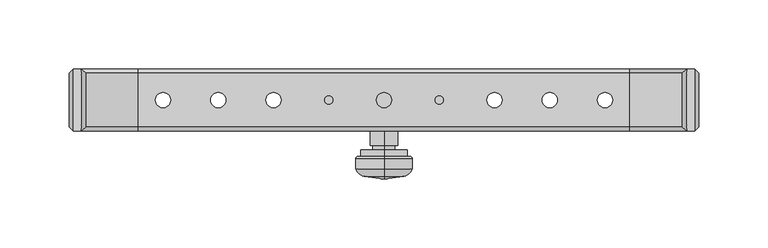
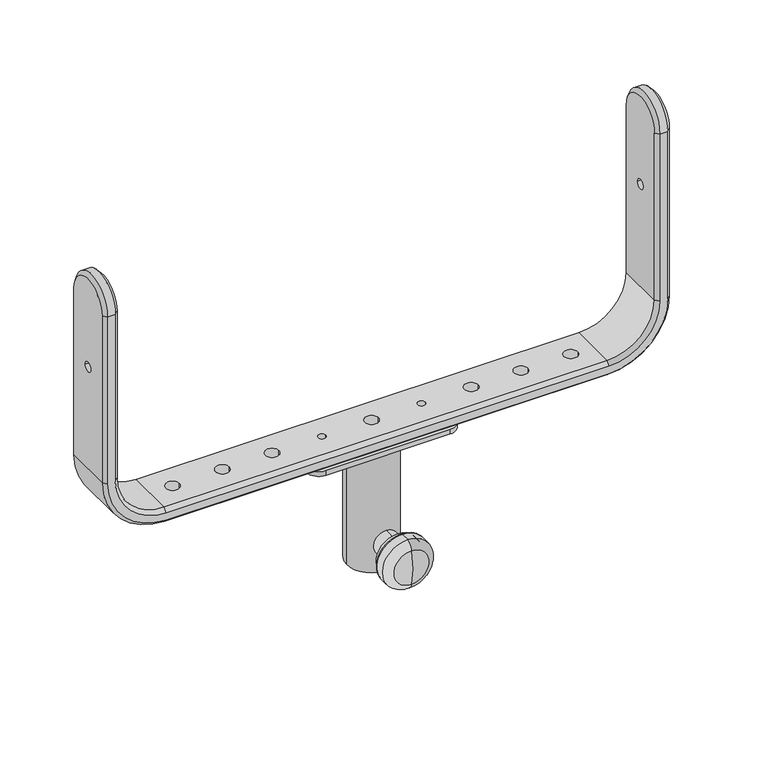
"""IFC4 building model written with IfcOpenShell, lengths in millimetres: proxy geometry, ePS8-HBRK425-SHM : ePS8-HBRK425-SHM."""

from ifc_helpers import new_model, si_unit, point, frame, frame_2d, origin, origin_with_axes, origin_2d, place, context, project, spatial, polyline, circle_curve, ellipse_curve, trimmed, segment, composite_curve, outline, extrude, source, transform, mapped, element, save
from ifc_brep_helpers import plane_surface, cylinder_surface, revolved_surface, advanced_brep


def generic_models_769fed6e(model_context):
    return source(origin(), model_context, "Body", "SolidModel", [
        advanced_brep(
        [(228.0, 19.5718345, 192.0012591), (228.0, -19.5718345, 192.0012591), (228.0, -19.5718345, 50.0), (228.0, 19.5718345, 50.0), (228.0, 4.0, 137.0012591), (228.0, -4.0, 137.0012591), (225.0, -22.5718345, 192.0012591), (225.0, -22.5718345, 50.0), (219.0, -22.5718345, 192.0012591), (219.0, -22.5718345, 50.0), (178.0, -22.5718345, 9.0), (-178.0, -22.5718345, 9.0), (-219.0, -22.5718345, 50.0), (-219.0, -22.5718345, 192.0012591), (-225.0, -22.5718345, 192.0012591), (-225.0, -22.5718345, 50.0), (-178.0, -22.5718345, 3.0), (178.0, -22.5718345, 3.0), (216.0, -19.5718345, 192.0012591), (216.0, -19.5718345, 50.0), (216.0, 19.5718345, 192.0012591), (216.0, 19.5718345, 50.0), (216.0, -4.0, 137.0012591), (216.0, 4.0, 137.0012591), (178.0, -19.5718345, 0.0), (178.0, 19.5718345, 0.0), (178.0, -19.5718345, 12.0), (178.0, 19.5718345, 12.0), (-178.0, -19.5718345, 0.0), (-178.0, 19.5718345, 0.0), (5.5, 0.0, 0.0), (-5.5, 0.0, 0.0), (-154.5, 0.0, 0.0), (-165.5, 0.0, 0.0), (-37.0, 0.0, 0.0), (-43.0, 0.0, 0.0), (-114.5, 0.0, 0.0), (-125.5, 0.0, 0.0), (-74.5, 0.0, 0.0), (-85.5, 0.0, 0.0), (154.5, 0.0, 0.0), (165.5, 0.0, 0.0), (37.0, 0.0, 0.0), (43.0, 0.0, 0.0), (114.5, 0.0, 0.0), (125.5, 0.0, 0.0), (74.5, 0.0, 0.0), (85.5, 0.0, 0.0), (-178.0, -19.5718345, 12.0), (-178.0, 19.5718345, 12.0), (-5.5, 0.0, 12.0), (5.5, 0.0, 12.0), (-165.5, 0.0, 12.0), (-154.5, 0.0, 12.0), (-43.0, 0.0, 12.0), (-37.0, 0.0, 12.0), (-125.5, 0.0, 12.0), (-114.5, 0.0, 12.0), (-85.5, 0.0, 12.0), (-74.5, 0.0, 12.0), (165.5, 0.0, 12.0), (154.5, 0.0, 12.0), (43.0, 0.0, 12.0), (37.0, 0.0, 12.0), (125.5, 0.0, 12.0), (114.5, 0.0, 12.0), (85.5, 0.0, 12.0), (74.5, 0.0, 12.0), (-228.0, -19.5718345, 50.0), (-228.0, 19.5718345, 50.0), (-216.0, -19.5718345, 50.0), (-216.0, 19.5718345, 50.0), (-228.0, -19.5718345, 192.0012591), (-228.0, 19.5718345, 192.0012591), (-228.0, -4.0, 137.0012591), (-228.0, 4.0, 137.0012591), (-216.0, -19.5718345, 192.0012591), (-216.0, 19.5718345, 192.0012591), (-216.0, 4.0, 137.0012591), (-216.0, -4.0, 137.0012591), (219.0, 22.5718345, 192.0012591), (219.0, 22.5718345, 50.0), (225.0, 22.5718345, 192.0012591), (225.0, 22.5718345, 50.0), (178.0, 22.5718345, 3.0), (-178.0, 22.5718345, 3.0), (-225.0, 22.5718345, 50.0), (-225.0, 22.5718345, 192.0012591), (-219.0, 22.5718345, 192.0012591), (-219.0, 22.5718345, 50.0), (-178.0, 22.5718345, 9.0), (178.0, 22.5718345, 9.0)],
        [
            (0, 1, circle_curve(frame((228.0, 0.0, 192.0012591), z_axis=(1.0, 0.0, 0.0), x_axis=(0.0, -1.0, 0.0)), 19.5718345)),
            (1, 2),
            (2, 3),
            (3, 0),
            (4, 5, circle_curve(frame((228.0, 0.0, 137.0012591), z_axis=(-1.0, 0.0, 0.0), x_axis=(0.0, 1.0, 0.0)), 4.0)),
            (5, 4, circle_curve(frame((228.0, 0.0, 137.0012591), z_axis=(-1.0, 0.0, 0.0), x_axis=(0.0, 1.0, 0.0)), 4.0)),
            (1, 6),
            (6, 7),
            (7, 2),
            (6, 8),
            (8, 9),
            (9, 10, circle_curve(frame((178.0, -22.5718345, 50.0), z_axis=(0.0, 1.0, 0.0), x_axis=(1.0, 0.0, 0.0)), 41.0)),
            (10, 11),
            (11, 12, circle_curve(frame((-178.0, -22.5718345, 50.0), z_axis=(0.0, 1.0, 0.0), x_axis=(0.0, 0.0, -1.0)), 41.0)),
            (12, 13),
            (13, 14),
            (14, 15),
            (15, 16, circle_curve(frame((-178.0, -22.5718345, 50.0), z_axis=(0.0, -1.0, 0.0), x_axis=(0.0, 0.0, -1.0)), 47.0)),
            (16, 17),
            (17, 7, circle_curve(frame((178.0, -22.5718345, 50.0), z_axis=(0.0, -1.0, 0.0), x_axis=(1.0, 0.0, 0.0)), 47.0)),
            (8, 18),
            (18, 19),
            (19, 9),
            (18, 20, circle_curve(frame((216.0, 0.0, 192.0012591), z_axis=(-1.0, 0.0, 0.0), x_axis=(0.0, -1.0, 0.0)), 19.5718345)),
            (20, 21),
            (21, 19),
            (22, 23, circle_curve(frame((216.0, 0.0, 137.0012591), z_axis=(1.0, 0.0, 0.0), x_axis=(0.0, 1.0, 0.0)), 4.0)),
            (23, 22, circle_curve(frame((216.0, 0.0, 137.0012591), z_axis=(1.0, 0.0, 0.0), x_axis=(0.0, 1.0, 0.0)), 4.0)),
            (2, 24, circle_curve(frame((178.0, -19.5718345, 50.0), z_axis=(0.0, 1.0, 0.0), x_axis=(1.0, 0.0, 0.0)), 50.0)),
            (24, 25),
            (25, 3, circle_curve(frame((178.0, 19.5718345, 50.0), z_axis=(0.0, -1.0, 0.0), x_axis=(1.0, 0.0, 0.0)), 50.0)),
            (17, 24),
            (19, 26, circle_curve(frame((178.0, -19.5718345, 50.0), z_axis=(0.0, 1.0, 0.0), x_axis=(1.0, 0.0, 0.0)), 38.0)),
            (26, 10),
            (21, 27, circle_curve(frame((178.0, 19.5718345, 50.0), z_axis=(0.0, 1.0, 0.0), x_axis=(1.0, 0.0, 0.0)), 38.0)),
            (27, 26),
            (24, 28),
            (28, 29),
            (29, 25),
            (30, 31, circle_curve(origin_with_axes(), 5.5)),
            (31, 30, circle_curve(origin_with_axes(), 5.5)),
            (32, 33, circle_curve(frame((-160.0, 0.0, 0.0), z_axis=(0.0, 0.0, 1.0), x_axis=(1.0, 0.0, 0.0)), 5.5)),
            (33, 32, circle_curve(frame((-160.0, 0.0, 0.0), z_axis=(0.0, 0.0, 1.0), x_axis=(1.0, 0.0, 0.0)), 5.5)),
            (34, 35, circle_curve(frame((-40.0, 0.0, 0.0), z_axis=(0.0, 0.0, 1.0), x_axis=(1.0, 0.0, 0.0)), 3.0)),
            (35, 34, circle_curve(frame((-40.0, 0.0, 0.0), z_axis=(0.0, 0.0, 1.0), x_axis=(1.0, 0.0, 0.0)), 3.0)),
            (36, 37, circle_curve(frame((-120.0, 0.0, 0.0), z_axis=(0.0, 0.0, 1.0), x_axis=(1.0, 0.0, 0.0)), 5.5)),
            (37, 36, circle_curve(frame((-120.0, 0.0, 0.0), z_axis=(0.0, 0.0, 1.0), x_axis=(1.0, 0.0, 0.0)), 5.5)),
            (38, 39, circle_curve(frame((-80.0, 0.0, 0.0), z_axis=(0.0, 0.0, 1.0), x_axis=(1.0, 0.0, 0.0)), 5.5)),
            (39, 38, circle_curve(frame((-80.0, 0.0, 0.0), z_axis=(0.0, 0.0, 1.0), x_axis=(1.0, 0.0, 0.0)), 5.5)),
            (40, 41, circle_curve(frame((160.0, 0.0, 0.0), z_axis=(0.0, 0.0, 1.0), x_axis=(-1.0, 0.0, 0.0)), 5.5)),
            (41, 40, circle_curve(frame((160.0, 0.0, 0.0), z_axis=(0.0, 0.0, 1.0), x_axis=(-1.0, 0.0, 0.0)), 5.5)),
            (42, 43, circle_curve(frame((40.0, 0.0, 0.0), z_axis=(0.0, 0.0, 1.0), x_axis=(-1.0, 0.0, 0.0)), 3.0)),
            (43, 42, circle_curve(frame((40.0, 0.0, 0.0), z_axis=(0.0, 0.0, 1.0), x_axis=(-1.0, 0.0, 0.0)), 3.0)),
            (44, 45, circle_curve(frame((120.0, 0.0, 0.0), z_axis=(0.0, 0.0, 1.0), x_axis=(-1.0, 0.0, 0.0)), 5.5)),
            (45, 44, circle_curve(frame((120.0, 0.0, 0.0), z_axis=(0.0, 0.0, 1.0), x_axis=(-1.0, 0.0, 0.0)), 5.5)),
            (46, 47, circle_curve(frame((80.0, 0.0, 0.0), z_axis=(0.0, 0.0, 1.0), x_axis=(-1.0, 0.0, 0.0)), 5.5)),
            (47, 46, circle_curve(frame((80.0, 0.0, 0.0), z_axis=(0.0, 0.0, 1.0), x_axis=(-1.0, 0.0, 0.0)), 5.5)),
            (16, 28),
            (26, 48),
            (48, 11),
            (27, 49),
            (49, 48),
            (50, 51, circle_curve(frame((0.0, 0.0, 12.0), z_axis=(0.0, 0.0, -1.0), x_axis=(1.0, 0.0, 0.0)), 5.5)),
            (51, 50, circle_curve(frame((0.0, 0.0, 12.0), z_axis=(0.0, 0.0, -1.0), x_axis=(1.0, 0.0, 0.0)), 5.5)),
            (52, 53, circle_curve(frame((-160.0, 0.0, 12.0), z_axis=(0.0, 0.0, -1.0), x_axis=(1.0, 0.0, 0.0)), 5.5)),
            (53, 52, circle_curve(frame((-160.0, 0.0, 12.0), z_axis=(0.0, 0.0, -1.0), x_axis=(1.0, 0.0, 0.0)), 5.5)),
            (54, 55, circle_curve(frame((-40.0, 0.0, 12.0), z_axis=(0.0, 0.0, -1.0), x_axis=(1.0, 0.0, 0.0)), 3.0)),
            (55, 54, circle_curve(frame((-40.0, 0.0, 12.0), z_axis=(0.0, 0.0, -1.0), x_axis=(1.0, 0.0, 0.0)), 3.0)),
            (56, 57, circle_curve(frame((-120.0, 0.0, 12.0), z_axis=(0.0, 0.0, -1.0), x_axis=(1.0, 0.0, 0.0)), 5.5)),
            (57, 56, circle_curve(frame((-120.0, 0.0, 12.0), z_axis=(0.0, 0.0, -1.0), x_axis=(1.0, 0.0, 0.0)), 5.5)),
            (58, 59, circle_curve(frame((-80.0, 0.0, 12.0), z_axis=(0.0, 0.0, -1.0), x_axis=(1.0, 0.0, 0.0)), 5.5)),
            (59, 58, circle_curve(frame((-80.0, 0.0, 12.0), z_axis=(0.0, 0.0, -1.0), x_axis=(1.0, 0.0, 0.0)), 5.5)),
            (60, 61, circle_curve(frame((160.0, 0.0, 12.0), z_axis=(0.0, 0.0, -1.0), x_axis=(-1.0, 0.0, 0.0)), 5.5)),
            (61, 60, circle_curve(frame((160.0, 0.0, 12.0), z_axis=(0.0, 0.0, -1.0), x_axis=(-1.0, 0.0, 0.0)), 5.5)),
            (62, 63, circle_curve(frame((40.0, 0.0, 12.0), z_axis=(0.0, 0.0, -1.0), x_axis=(-1.0, 0.0, 0.0)), 3.0)),
            (63, 62, circle_curve(frame((40.0, 0.0, 12.0), z_axis=(0.0, 0.0, -1.0), x_axis=(-1.0, 0.0, 0.0)), 3.0)),
            (64, 65, circle_curve(frame((120.0, 0.0, 12.0), z_axis=(0.0, 0.0, -1.0), x_axis=(-1.0, 0.0, 0.0)), 5.5)),
            (65, 64, circle_curve(frame((120.0, 0.0, 12.0), z_axis=(0.0, 0.0, -1.0), x_axis=(-1.0, 0.0, 0.0)), 5.5)),
            (66, 67, circle_curve(frame((80.0, 0.0, 12.0), z_axis=(0.0, 0.0, -1.0), x_axis=(-1.0, 0.0, 0.0)), 5.5)),
            (67, 66, circle_curve(frame((80.0, 0.0, 12.0), z_axis=(0.0, 0.0, -1.0), x_axis=(-1.0, 0.0, 0.0)), 5.5)),
            (28, 68, circle_curve(frame((-178.0, -19.5718345, 50.0), z_axis=(0.0, 1.0, 0.0), x_axis=(0.0, 0.0, -1.0)), 50.0)),
            (68, 69),
            (69, 29, circle_curve(frame((-178.0, 19.5718345, 50.0), z_axis=(0.0, -1.0, 0.0), x_axis=(0.0, 0.0, -1.0)), 50.0)),
            (15, 68),
            (48, 70, circle_curve(frame((-178.0, -19.5718345, 50.0), z_axis=(0.0, 1.0, 0.0), x_axis=(0.0, 0.0, -1.0)), 38.0)),
            (70, 12),
            (49, 71, circle_curve(frame((-178.0, 19.5718345, 50.0), z_axis=(0.0, 1.0, 0.0), x_axis=(0.0, 0.0, -1.0)), 38.0)),
            (71, 70),
            (68, 72),
            (72, 73, circle_curve(frame((-228.0, 0.0, 192.0012591), z_axis=(-1.0, 0.0, 0.0), x_axis=(0.0, -1.0, 0.0)), 19.5718345)),
            (73, 69),
            (74, 75, circle_curve(frame((-228.0, 0.0, 137.0012591), z_axis=(1.0, 0.0, 0.0), x_axis=(0.0, 1.0, 0.0)), 4.0)),
            (75, 74, circle_curve(frame((-228.0, 0.0, 137.0012591), z_axis=(1.0, 0.0, 0.0), x_axis=(0.0, 1.0, 0.0)), 4.0)),
            (14, 72),
            (70, 76),
            (76, 13),
            (71, 77),
            (77, 76, circle_curve(frame((-216.0, 0.0, 192.0012591), z_axis=(1.0, 0.0, 0.0), x_axis=(0.0, -1.0, 0.0)), 19.5718345)),
            (78, 79, circle_curve(frame((-216.0, 0.0, 137.0012591), z_axis=(-1.0, 0.0, 0.0), x_axis=(0.0, 1.0, 0.0)), 4.0)),
            (79, 78, circle_curve(frame((-216.0, 0.0, 137.0012591), z_axis=(-1.0, 0.0, 0.0), x_axis=(0.0, 1.0, 0.0)), 4.0)),
            (20, 80),
            (80, 81),
            (81, 21),
            (80, 82),
            (82, 83),
            (83, 84, circle_curve(frame((178.0, 22.5718345, 50.0), z_axis=(0.0, 1.0, 0.0), x_axis=(1.0, 0.0, 0.0)), 47.0)),
            (84, 85),
            (85, 86, circle_curve(frame((-178.0, 22.5718345, 50.0), z_axis=(0.0, 1.0, 0.0), x_axis=(0.0, 0.0, -1.0)), 47.0)),
            (86, 87),
            (87, 88),
            (88, 89),
            (89, 90, circle_curve(frame((-178.0, 22.5718345, 50.0), z_axis=(0.0, -1.0, 0.0), x_axis=(0.0, 0.0, -1.0)), 41.0)),
            (90, 91),
            (91, 81, circle_curve(frame((178.0, 22.5718345, 50.0), z_axis=(0.0, -1.0, 0.0), x_axis=(1.0, 0.0, 0.0)), 41.0)),
            (3, 83),
            (82, 0),
            (91, 27),
            (25, 84),
            (90, 49),
            (29, 85),
            (89, 71),
            (69, 86),
            (88, 77),
            (73, 87),
            (87, 14, circle_curve(frame((-225.0, 0.0, 192.0012591), z_axis=(1.0, 0.0, 0.0), x_axis=(0.0, -1.0, 0.0)), 22.5718345)),
            (13, 88, circle_curve(frame((-219.0, 0.0, 192.0012591), z_axis=(-1.0, 0.0, 0.0), x_axis=(0.0, -1.0, 0.0)), 22.5718345)),
            (80, 8, circle_curve(frame((219.0, 0.0, 192.0012591), z_axis=(1.0, 0.0, 0.0), x_axis=(0.0, -1.0, 0.0)), 22.5718345)),
            (6, 82, circle_curve(frame((225.0, 0.0, 192.0012591), z_axis=(-1.0, 0.0, 0.0), x_axis=(0.0, -1.0, 0.0)), 22.5718345)),
            (51, 30),
            (31, 50),
            (53, 32),
            (33, 52),
            (55, 34),
            (35, 54),
            (57, 36),
            (37, 56),
            (59, 38),
            (39, 58),
            (61, 40),
            (41, 60),
            (63, 42),
            (43, 62),
            (65, 44),
            (45, 64),
            (67, 46),
            (47, 66),
            (23, 4),
            (5, 22),
            (75, 78),
            (79, 74),
        ],
        [
            plane_surface(frame((228.0, 19.5718345, 192.0012591), z_axis=(1.0, 0.0, 0.0), x_axis=(0.0, 0.0, -1.0))),
            plane_surface(frame((228.0, -19.5718345, 192.0012591), z_axis=(0.707106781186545, -0.70710678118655, 0.0), x_axis=(0.0, 0.0, -1.0))),
            plane_surface(frame((225.0, -22.5718345, 192.0012591), z_axis=(0.0, -1.0, 0.0), x_axis=(0.0, 0.0, -1.0))),
            plane_surface(frame((219.0, -22.5718345, 192.0012591), z_axis=(-0.7071067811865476, -0.7071067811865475, 0.0), x_axis=(0.0, 0.0, -1.0))),
            plane_surface(frame((216.0, -19.5718345, 192.0012591), z_axis=(-1.0, 0.0, 0.0), x_axis=(0.0, 0.0, -1.0))),
            cylinder_surface(frame((178.0, 0.0, 50.0), z_axis=(0.0, -1.0, 0.0), x_axis=(1.0, 0.0, 0.0)), 50.0),
            revolved_surface(polyline([(228.0, -19.5718345, 50.0), (225.0, -22.5718345, 50.0)]), (178.0, 0.0, 50.0), (0.0, -1.0, 0.0)),
            revolved_surface(polyline([(219.0, -22.5718345, 50.0), (216.0, -19.5718345, 50.0)]), (178.0, 0.0, 50.0), (0.0, -1.0, 0.0)),
            revolved_surface(polyline([(216.0, -19.5718345, 50.0), (216.0, 19.5718345, 50.0)]), (178.0, 0.0, 50.0), (0.0, -1.0, 0.0)),
            plane_surface(frame((178.0, 19.5718345, 0.0), z_axis=(0.0, 0.0, -1.0), x_axis=(-1.0, 0.0, 0.0))),
            plane_surface(frame((178.0, -19.5718345, 0.0), z_axis=(0.0, -0.7071067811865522, -0.7071067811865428), x_axis=(-1.0, 0.0, 0.0))),
            plane_surface(frame((178.0, -22.5718345, 9.0), z_axis=(0.0, -0.7071067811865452, 0.7071067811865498), x_axis=(-1.0, 0.0, 0.0))),
            plane_surface(frame((178.0, -19.5718345, 12.0), z_axis=(0.0, 0.0, 1.0), x_axis=(-1.0, 0.0, 0.0))),
            cylinder_surface(frame((-178.0, 0.0, 50.0), z_axis=(0.0, -1.0, 0.0), x_axis=(0.0, 0.0, -1.0)), 50.0),
            revolved_surface(polyline([(-178.0, -19.5718345, 0.0), (-178.0, -22.5718345, 3.0)]), (-178.0, 0.0, 50.0), (0.0, -1.0, 0.0)),
            revolved_surface(polyline([(-178.0, -22.5718345, 9.0), (-178.0, -19.5718345, 12.0)]), (-178.0, 0.0, 50.0), (0.0, -1.0, 0.0)),
            revolved_surface(polyline([(-178.0, -19.5718345, 12.0), (-178.0, 19.5718345, 12.0)]), (-178.0, 0.0, 50.0), (0.0, -1.0, 0.0)),
            plane_surface(frame((-228.0, 19.5718345, 50.0), z_axis=(-1.0, 0.0, 0.0), x_axis=(0.0, 0.0, 1.0))),
            plane_surface(frame((-228.0, -19.5718345, 50.0), z_axis=(-0.7071067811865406, -0.7071067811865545, 0.0), x_axis=(0.0, 0.0, 1.0))),
            plane_surface(frame((-219.0, -22.5718345, 50.0), z_axis=(0.707106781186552, -0.707106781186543, 0.0), x_axis=(0.0, 0.0, 1.0))),
            plane_surface(frame((-216.0, -19.5718345, 50.0), z_axis=(1.0, 0.0, 0.0), x_axis=(0.0, 0.0, 1.0))),
            plane_surface(frame((216.0, 19.5718345, 192.0012591), z_axis=(-0.707106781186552, 0.707106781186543, 0.0), x_axis=(0.0, 0.0, -1.0))),
            plane_surface(frame((219.0, 22.5718345, 192.0012591), z_axis=(0.0, 1.0, 0.0), x_axis=(0.0, 0.0, -1.0))),
            plane_surface(frame((225.0, 22.5718345, 192.0012591), z_axis=(0.7071067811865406, 0.7071067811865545, 0.0), x_axis=(0.0, 0.0, -1.0))),
            revolved_surface(polyline([(216.0, 19.5718345, 50.0), (219.0, 22.5718345, 50.0)]), (178.0, 0.0, 50.0), (0.0, -1.0, 0.0)),
            revolved_surface(polyline([(225.0, 22.5718345, 50.0), (228.0, 19.5718345, 50.0)]), (178.0, 0.0, 50.0), (0.0, -1.0, 0.0)),
            plane_surface(frame((178.0, 19.5718345, 12.0), z_axis=(0.0, 0.7071067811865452, 0.7071067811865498), x_axis=(-1.0, 0.0, 0.0))),
            plane_surface(frame((178.0, 22.5718345, 3.0), z_axis=(0.0, 0.7071067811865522, -0.7071067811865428), x_axis=(-1.0, 0.0, 0.0))),
            revolved_surface(polyline([(-178.0, 19.5718345, 12.0), (-178.0, 22.5718345, 9.0)]), (-178.0, 0.0, 50.0), (0.0, -1.0, 0.0)),
            revolved_surface(polyline([(-178.0, 22.5718345, 3.0), (-178.0, 19.5718345, 0.0)]), (-178.0, 0.0, 50.0), (0.0, -1.0, 0.0)),
            plane_surface(frame((-216.0, 19.5718345, 50.0), z_axis=(0.7071067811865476, 0.7071067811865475, 0.0), x_axis=(0.0, 0.0, 1.0))),
            plane_surface(frame((-225.0, 22.5718345, 50.0), z_axis=(-0.707106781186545, 0.70710678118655, 0.0), x_axis=(0.0, 0.0, 1.0))),
            cylinder_surface(frame((1971.5, 0.0, 192.0012591), z_axis=(1.0, 0.0, 0.0), x_axis=(0.0, -1.0, 0.0)), 22.5718345),
            revolved_surface(polyline([(-219.0, -22.5718345, 192.0012591), (-216.0, -19.5718345, 192.0012591)]), (1971.5, 0.0, 192.0012591), (1.0, 0.0, 0.0)),
            revolved_surface(polyline([(-228.0, -19.5718345, 192.0012591), (-225.0, -22.5718345, 192.0012591)]), (1971.5, 0.0, 192.0012591), (1.0, 0.0, 0.0)),
            cylinder_surface(frame((-1971.5, 0.0, 192.0012591), z_axis=(1.0, 0.0, 0.0), x_axis=(0.0, -1.0, 0.0)), 22.5718345),
            revolved_surface(polyline([(216.0, -19.5718345, 192.0012591), (219.0, -22.5718345, 192.0012591)]), (-1971.5, 0.0, 192.0012591), (1.0, 0.0, 0.0)),
            revolved_surface(polyline([(225.0, -22.5718345, 192.0012591), (228.0, -19.5718345, 192.0012591)]), (-1971.5, 0.0, 192.0012591), (1.0, 0.0, 0.0)),
            revolved_surface(polyline([(5.5, 0.0, 0.0), (5.5, 0.0, 12.0)]), (0.0, 0.0, 20.0), (0.0, 0.0, -1.0)),
            revolved_surface(polyline([(-154.5, 0.0, 0.0), (-154.5, 0.0, 12.0)]), (-160.0, 0.0, 0.0), (0.0, 0.0, -1.0)),
            revolved_surface(polyline([(-37.0, 0.0, 0.0), (-37.0, 0.0, 12.0)]), (-40.0, 0.0, 0.0), (0.0, 0.0, -1.0)),
            revolved_surface(polyline([(-114.5, 0.0, 0.0), (-114.5, 0.0, 12.0)]), (-120.0, 0.0, 0.0), (0.0, 0.0, -1.0)),
            revolved_surface(polyline([(-74.5, 0.0, 0.0), (-74.5, 0.0, 12.0)]), (-80.0, 0.0, 0.0), (0.0, 0.0, -1.0)),
            revolved_surface(polyline([(154.5, 0.0, 0.0), (154.5, 0.0, 12.0)]), (160.0, 0.0, 0.0), (0.0, 0.0, -1.0)),
            revolved_surface(polyline([(37.0, 0.0, 0.0), (37.0, 0.0, 12.0)]), (40.0, 0.0, 0.0), (0.0, 0.0, -1.0)),
            revolved_surface(polyline([(114.5, 0.0, 0.0), (114.5, 0.0, 12.0)]), (120.0, 0.0, 0.0), (0.0, 0.0, -1.0)),
            revolved_surface(polyline([(74.5, 0.0, 0.0), (74.5, 0.0, 12.0)]), (80.0, 0.0, 0.0), (0.0, 0.0, -1.0)),
            revolved_surface(polyline([(228.0, 4.0, 137.0012591), (216.0, 4.0, 137.0012591)]), (-235.0, 0.0, 137.0012591), (1.0, 0.0, 0.0)),
            revolved_surface(polyline([(-216.0, 4.0, 137.0012591), (-228.0, 4.0, 137.0012591)]), (-235.0, 0.0, 137.0012591), (1.0, 0.0, 0.0)),
        ],
        [
            (0, [[1, 2, 3, 4], [5, 6]]),
            (1, [[7, 8, 9, -2]]),
            (2, [[10, 11, 12, 13, 14, 15, 16, 17, 18, 19, 20, -8]]),
            (3, [[21, 22, 23, -11]]),
            (4, [[24, 25, 26, -22], [27, 28]]),
            (5, [[29, 30, 31, -3]]),
            (6, [[-20, 32, -29, -9]]),
            (7, [[-23, 33, 34, -12]]),
            (8, [[35, 36, -33, -26]]),
            (9, [[37, 38, 39, -30], [40, 41], [42, 43], [44, 45], [46, 47], [48, 49], [50, 51], [52, 53], [54, 55], [56, 57]]),
            (10, [[58, -37, -32, -19]]),
            (11, [[-34, 59, 60, -13]]),
            (12, [[61, 62, -59, -36], [63, 64], [65, 66], [67, 68], [69, 70], [71, 72], [73, 74], [75, 76], [77, 78], [79, 80]]),
            (13, [[81, 82, 83, -38]]),
            (14, [[84, -81, -58, -18]]),
            (15, [[-60, 85, 86, -14]]),
            (16, [[87, 88, -85, -62]]),
            (17, [[89, 90, 91, -82], [92, 93]]),
            (18, [[94, -89, -84, -17]]),
            (19, [[-86, 95, 96, -15]]),
            (20, [[97, 98, -95, -88], [99, 100]]),
            (21, [[101, 102, 103, -25]]),
            (22, [[104, 105, 106, 107, 108, 109, 110, 111, 112, 113, 114, -102]]),
            (23, [[115, -105, 116, -4]]),
            (24, [[-103, -114, 117, -35]]),
            (25, [[118, -106, -115, -31]]),
            (26, [[-117, -113, 119, -61]]),
            (27, [[120, -107, -118, -39]]),
            (28, [[-119, -112, 121, -87]]),
            (29, [[122, -108, -120, -83]]),
            (30, [[-121, -111, 123, -97]]),
            (31, [[124, -109, -122, -91]]),
            (32, [[-110, 125, -16, 126]]),
            (33, [[-96, -98, -123, -126]]),
            (34, [[-124, -90, -94, -125]]),
            (35, [[-104, 127, -10, 128]]),
            (36, [[-101, -24, -21, -127]]),
            (37, [[-7, -1, -116, -128]]),
            (38, [[-64, 129, -41, 130]]),
            (38, [[-40, -129, -63, -130]]),
            (39, [[-66, 131, -43, 132]]),
            (39, [[-42, -131, -65, -132]]),
            (40, [[-68, 133, -45, 134]]),
            (40, [[-44, -133, -67, -134]]),
            (41, [[-70, 135, -47, 136]]),
            (41, [[-46, -135, -69, -136]]),
            (42, [[-72, 137, -49, 138]]),
            (42, [[-48, -137, -71, -138]]),
            (43, [[-74, 139, -51, 140]]),
            (43, [[-50, -139, -73, -140]]),
            (44, [[-76, 141, -53, 142]]),
            (44, [[-52, -141, -75, -142]]),
            (45, [[-78, 143, -55, 144]]),
            (45, [[-54, -143, -77, -144]]),
            (46, [[-80, 145, -57, 146]]),
            (46, [[-56, -145, -79, -146]]),
            (47, [[-28, 147, -6, 148]]),
            (48, [[-93, 149, -100, 150]]),
            (47, [[-5, -147, -27, -148]]),
            (48, [[-99, -149, -92, -150]]),
        ],
    ),
        advanced_brep(
        [(0.0, -33.0, -90.0), (0.0, -33.0, -70.0), (0.0, -20.0, -70.0), (0.0, -20.0, -90.0), (0.0, -33.0, -88.0), (0.0, -33.0, -72.0), (0.0, -36.0, -88.0), (0.0, -36.0, -72.0), (0.0, -36.0, -97.0), (0.0, -36.0, -63.0), (0.0, -41.0, -97.0), (0.0, -41.0, -63.0), (0.0, -41.0, -99.0134125), (0.0, -41.0, -60.9865875), (0.0, -42.4865875, -100.5), (0.0, -42.4865875, -59.5), (0.0, -50.0, -100.5), (0.0, -50.0, -59.5), (0.0, -55.3756411, -94.3160324), (0.0, -55.3756411, -65.6839676), (0.0, -56.9925385, -80.0), (0.0, -20.0, -80.0)],
        [
            (0, 1, circle_curve(frame((0.0, -33.0, -80.0), z_axis=(0.0, 1.0, 0.0), x_axis=(0.0, 0.0, 1.0)), 10.0)),
            (1, 2),
            (2, 3, circle_curve(frame((0.0, -20.0, -80.0), z_axis=(0.0, -1.0, 0.0), x_axis=(0.0, 0.0, 1.0)), 10.0)),
            (3, 0),
            (1, 0, circle_curve(frame((0.0, -33.0, -80.0), z_axis=(0.0, 1.0, 0.0), x_axis=(0.0, 0.0, 1.0)), 10.0)),
            (3, 2, circle_curve(frame((0.0, -20.0, -80.0), z_axis=(0.0, -1.0, 0.0), x_axis=(0.0, 0.0, 1.0)), 10.0)),
            (4, 5, circle_curve(frame((0.0, -33.0, -80.0), z_axis=(0.0, 1.0, 0.0), x_axis=(0.0, 0.0, 1.0)), 8.0)),
            (5, 1),
            (0, 4),
            (5, 4, circle_curve(frame((0.0, -33.0, -80.0), z_axis=(0.0, 1.0, 0.0), x_axis=(0.0, 0.0, 1.0)), 8.0)),
            (6, 7, circle_curve(frame((0.0, -36.0, -80.0), z_axis=(0.0, 1.0, 0.0), x_axis=(0.0, 0.0, 1.0)), 8.0)),
            (7, 5),
            (4, 6),
            (7, 6, circle_curve(frame((0.0, -36.0, -80.0), z_axis=(0.0, 1.0, 0.0), x_axis=(0.0, 0.0, 1.0)), 8.0)),
            (8, 9, circle_curve(frame((0.0, -36.0, -80.0), z_axis=(0.0, 1.0, 0.0), x_axis=(0.0, 0.0, 1.0)), 17.0)),
            (9, 7),
            (6, 8),
            (9, 8, circle_curve(frame((0.0, -36.0, -80.0), z_axis=(0.0, 1.0, 0.0), x_axis=(0.0, 0.0, 1.0)), 17.0)),
            (10, 11, circle_curve(frame((0.0, -41.0, -80.0), z_axis=(0.0, 1.0, 0.0), x_axis=(0.0, 0.0, 1.0)), 17.0)),
            (11, 9),
            (8, 10),
            (11, 10, circle_curve(frame((0.0, -41.0, -80.0), z_axis=(0.0, 1.0, 0.0), x_axis=(0.0, 0.0, 1.0)), 17.0)),
            (12, 13, circle_curve(frame((0.0, -41.0, -80.0), z_axis=(0.0, 1.0, 0.0), x_axis=(0.0, 0.0, 1.0)), 19.0134125)),
            (13, 11),
            (10, 12),
            (13, 12, circle_curve(frame((0.0, -41.0, -80.0), z_axis=(0.0, 1.0, 0.0), x_axis=(0.0, 0.0, 1.0)), 19.0134125)),
            (14, 15, circle_curve(frame((0.0, -42.4865875, -80.0), z_axis=(0.0, 1.0, 0.0), x_axis=(0.0, 0.0, 1.0)), 20.5)),
            (15, 13, circle_curve(frame((0.0, -42.4865875, -60.9865875), z_axis=(-1.0, 0.0, 0.0), x_axis=(0.0, 1.0, 0.0)), 1.4865875)),
            (12, 14, circle_curve(frame((0.0, -42.4865875, -99.0134125), z_axis=(-1.0, 0.0, 0.0), x_axis=(0.0, 1.0, 0.0)), 1.4865875)),
            (15, 14, circle_curve(frame((0.0, -42.4865875, -80.0), z_axis=(0.0, 1.0, 0.0), x_axis=(0.0, 0.0, 1.0)), 20.5)),
            (16, 17, circle_curve(frame((0.0, -50.0, -80.0), z_axis=(0.0, 1.0, 0.0), x_axis=(0.0, 0.0, 1.0)), 20.5)),
            (17, 15),
            (14, 16),
            (17, 16, circle_curve(frame((0.0, -50.0, -80.0), z_axis=(0.0, 1.0, 0.0), x_axis=(0.0, 0.0, 1.0)), 20.5)),
            (18, 19, circle_curve(frame((0.0, -55.3756411, -80.0), z_axis=(0.0, 1.0, 0.0), x_axis=(0.0, 0.0, 1.0)), 14.3160324)),
            (19, 17, circle_curve(frame((0.0, -47.4239637, -67.1677848), z_axis=(-1.0, 0.0, 0.0), x_axis=(0.0, 1.0, 0.0)), 8.088936)),
            (16, 18, circle_curve(frame((0.0, -47.4239637, -92.8322152), z_axis=(-1.0, 0.0, 0.0), x_axis=(0.0, 1.0, 0.0)), 8.088936)),
            (19, 18, circle_curve(frame((0.0, -55.3756411, -80.0), z_axis=(0.0, 1.0, 0.0), x_axis=(0.0, 0.0, 1.0)), 14.3160324)),
            (20, 19, circle_curve(frame((0.0, 43.0388316, -84.0485305), z_axis=(-1.0, 0.0, 0.0), x_axis=(0.0, 1.0, 0.0)), 100.1132638)),
            (18, 20, circle_curve(frame((0.0, 43.0388316, -75.9514695), z_axis=(-1.0, 0.0, 0.0), x_axis=(0.0, 1.0, 0.0)), 100.1132638)),
            (2, 21),
            (21, 3),
        ],
        [
            cylinder_surface(frame((0.0, -66.5618796, -80.0), z_axis=(0.0, -1.0, 0.0), x_axis=(0.0, 0.0, 1.0)), 10.0),
            plane_surface(frame((0.0, -33.0, -80.0), z_axis=(0.0, -1.0, 0.0), x_axis=(0.0, 0.0, 1.0))),
            cylinder_surface(frame((0.0, -66.5618796, -80.0), z_axis=(0.0, -1.0, 0.0), x_axis=(0.0, 0.0, 1.0)), 8.0),
            plane_surface(frame((0.0, -36.0, -80.0), z_axis=(0.0, 1.0, 0.0), x_axis=(0.0, 0.0, 1.0))),
            cylinder_surface(frame((0.0, -66.5618796, -80.0), z_axis=(0.0, -1.0, 0.0), x_axis=(0.0, 0.0, 1.0)), 17.0),
            plane_surface(frame((0.0, -41.0, -80.0), z_axis=(0.0, 1.0, 0.0), x_axis=(0.0, 0.0, 1.0))),
            revolved_surface(trimmed(ellipse_curve(frame((0.0, -42.4865875, -60.9865875), z_axis=(1.0, 0.0, 0.0), x_axis=(0.0, 1.0, 0.0)), 1.4865875, 1.4865875), [point((0.0, -41.0, -60.9865875))], [point((0.0, -42.4865875, -59.5))], True, "CARTESIAN"), (0.0, -66.5618796, -80.0), (0.0, -1.0, 0.0)),
            cylinder_surface(frame((0.0, -66.5618796, -80.0), z_axis=(0.0, -1.0, 0.0), x_axis=(0.0, 0.0, 1.0)), 20.5),
            revolved_surface(trimmed(ellipse_curve(frame((0.0, -47.4239637, -67.1677848), z_axis=(1.0, 0.0, 0.0), x_axis=(0.0, 1.0, 0.0)), 8.088936, 8.088936), [point((0.0, -50.0, -59.5))], [point((0.0, -55.3756411, -65.6839676))], True, "CARTESIAN"), (0.0, -66.5618796, -80.0), (0.0, -1.0, 0.0)),
            revolved_surface(trimmed(ellipse_curve(frame((0.0, 43.0388316, -84.0485305), z_axis=(1.0, 0.0, 0.0), x_axis=(0.0, 1.0, 0.0)), 100.1132638, 100.1132638), [point((0.0, -55.3756411, -65.6839676))], [point((0.0, -56.9925385, -80.0))], True, "CARTESIAN"), (0.0, -66.5618796, -80.0), (0.0, -1.0, 0.0)),
            plane_surface(frame((0.0, -20.0, -80.0), z_axis=(0.0, 1.0, 0.0), x_axis=(0.0, 0.0, 1.0))),
        ],
        [
            (0, [[1, 2, 3, 4]]),
            (0, [[5, -4, 6, -2]]),
            (1, [[7, 8, -1, 9]]),
            (1, [[10, -9, -5, -8]]),
            (2, [[11, 12, -7, 13]]),
            (2, [[14, -13, -10, -12]]),
            (3, [[15, 16, -11, 17]]),
            (3, [[18, -17, -14, -16]]),
            (4, [[19, 20, -15, 21]]),
            (4, [[22, -21, -18, -20]]),
            (5, [[23, 24, -19, 25]]),
            (5, [[26, -25, -22, -24]]),
            (6, [[27, 28, -23, 29]]),
            (6, [[30, -29, -26, -28]]),
            (7, [[31, 32, -27, 33]]),
            (7, [[34, -33, -30, -32]]),
            (8, [[35, 36, -31, 37]]),
            (8, [[38, -37, -34, -36]]),
            (9, [[39, -35, 40]]),
            (9, [[-40, -38, -39]]),
            (10, [[-3, 41, 42]]),
            (10, [[-6, -42, -41]]),
        ],
    ),
        extrude(outline(composite_curve([segment(trimmed(circle_curve(origin_2d(), 20.0), [point((-20.0, 0.0))], [point((20.0, 0.0))], False, "CARTESIAN"), True, "CONTINUOUS"), segment(trimmed(circle_curve(origin_2d(), 20.0), [point((20.0, 0.0))], [point((-20.0, 0.0))], False, "CARTESIAN"), True, "CONTINUOUS")], self_intersect=False), holes=[composite_curve([segment(trimmed(circle_curve(origin_2d(), 18.0448116), [point((-18.0448116, 0.0))], [point((18.0448116, 0.0))], True, "CARTESIAN"), True, "CONTINUOUS"), segment(trimmed(circle_curve(origin_2d(), 18.0448116), [point((18.0448116, 0.0))], [point((-18.0448116, 0.0))], True, "CARTESIAN"), True, "CONTINUOUS")], self_intersect=False)]), frame((0.0, 0.0, -104.0), z_axis=(0.0, 0.0, 1.0), x_axis=(1.0, 0.0, 0.0)), (0.0, 0.0, 1.0), 100.0),
        extrude(outline(composite_curve([segment(trimmed(circle_curve(frame_2d((-40.0, 0.0)), 6.0), [point((-46.0, 0.0))], [point((-34.0, 0.0))], False, "CARTESIAN"), True, "CONTINUOUS"), segment(trimmed(circle_curve(frame_2d((-40.0, 0.0)), 6.0), [point((-34.0, 0.0))], [point((-46.0, 0.0))], False, "CARTESIAN"), True, "CONTINUOUS")], self_intersect=False)), frame((0.0, 0.0, -8.0), z_axis=(0.0, 0.0, 1.0), x_axis=(1.0, 0.0, 0.0)), (0.0, 0.0, 1.0), 4.0),
        extrude(outline(composite_curve([segment(trimmed(circle_curve(frame_2d((40.0, 0.0)), 6.0), [point((46.0, 0.0))], [point((34.0, 0.0))], False, "CARTESIAN"), True, "CONTINUOUS"), segment(trimmed(circle_curve(frame_2d((40.0, 0.0)), 6.0), [point((34.0, 0.0))], [point((46.0, 0.0))], False, "CARTESIAN"), True, "CONTINUOUS")], self_intersect=False)), frame((0.0, 0.0, -8.0), z_axis=(0.0, 0.0, 1.0), x_axis=(1.0, 0.0, 0.0)), (0.0, 0.0, 1.0), 4.0),
        extrude(outline(composite_curve([segment(trimmed(circle_curve(frame_2d((50.0, 12.5)), 10.0), [point((50.0, 22.5))], [point((60.0, 12.5))], False, "CARTESIAN"), True, "CONTINUOUS"), segment(polyline([(60.0, 12.5), (60.0, -12.5)]), True, "CONTINUOUS"), segment(trimmed(circle_curve(frame_2d((50.0, -12.5)), 10.0), [point((60.0, -12.5))], [point((50.0, -22.5))], False, "CARTESIAN"), True, "CONTINUOUS"), segment(polyline([(50.0, -22.5), (-50.0, -22.5)]), True, "CONTINUOUS"), segment(trimmed(circle_curve(frame_2d((-50.0, -12.5)), 10.0), [point((-50.0, -22.5))], [point((-60.0, -12.5))], False, "CARTESIAN"), True, "CONTINUOUS"), segment(polyline([(-60.0, -12.5), (-60.0, 12.5)]), True, "CONTINUOUS"), segment(trimmed(circle_curve(frame_2d((-50.0, 12.5)), 10.0), [point((-60.0, 12.5))], [point((-50.0, 22.5))], False, "CARTESIAN"), True, "CONTINUOUS"), segment(polyline([(-50.0, 22.5), (50.0, 22.5)]), True, "CONTINUOUS")], self_intersect=False), holes=[composite_curve([segment(trimmed(circle_curve(frame_2d((-40.0, 0.0)), 3.0), [point((-43.0, 0.0))], [point((-37.0, 0.0))], True, "CARTESIAN"), True, "CONTINUOUS"), segment(trimmed(circle_curve(frame_2d((-40.0, 0.0)), 3.0), [point((-37.0, 0.0))], [point((-43.0, 0.0))], True, "CARTESIAN"), True, "CONTINUOUS")], self_intersect=False), composite_curve([segment(trimmed(circle_curve(frame_2d((40.0, 0.0)), 3.0), [point((43.0, 0.0))], [point((37.0, 0.0))], True, "CARTESIAN"), True, "CONTINUOUS"), segment(trimmed(circle_curve(frame_2d((40.0, 0.0)), 3.0), [point((37.0, 0.0))], [point((43.0, 0.0))], True, "CARTESIAN"), True, "CONTINUOUS")], self_intersect=False)]), frame((0.0, 0.0, -4.0), z_axis=(0.0, 0.0, 1.0), x_axis=(1.0, 0.0, 0.0)), (0.0, 0.0, 1.0), 4.0),
    ])


if __name__ == "__main__":
    model = new_model("IFC4")
    model_context = context("Model", 3, world=origin())
    ifc_project = project(units=[si_unit("LENGTHUNIT", "METRE", prefix="MILLI")], contexts=[model_context])
    site = spatial("IfcSite", under=ifc_project)
    building = spatial("IfcBuilding", under=site)
    placement = place(None, origin())
    generic_models_shape = generic_models_769fed6e(model_context)
    element("IfcBuildingElementProxy", 1, Name="ePS8-HBRK425-SHM : ePS8-HBRK425-SHM", ObjectType="ePS8-HBRK425-SHM : ePS8-HBRK425-SHM", at=placement, inside=building, context=model_context, shape_type="MappedRepresentation", body=[
        mapped(generic_models_shape, transform((0.0, 0.0, 0.0), x_axis=(1.0, 0.0, 0.0), y_axis=(0.0, 1.0, 0.0), z_axis=(0.0, 0.0, 1.0))),
    ])
    save(model, "model.ifc")
